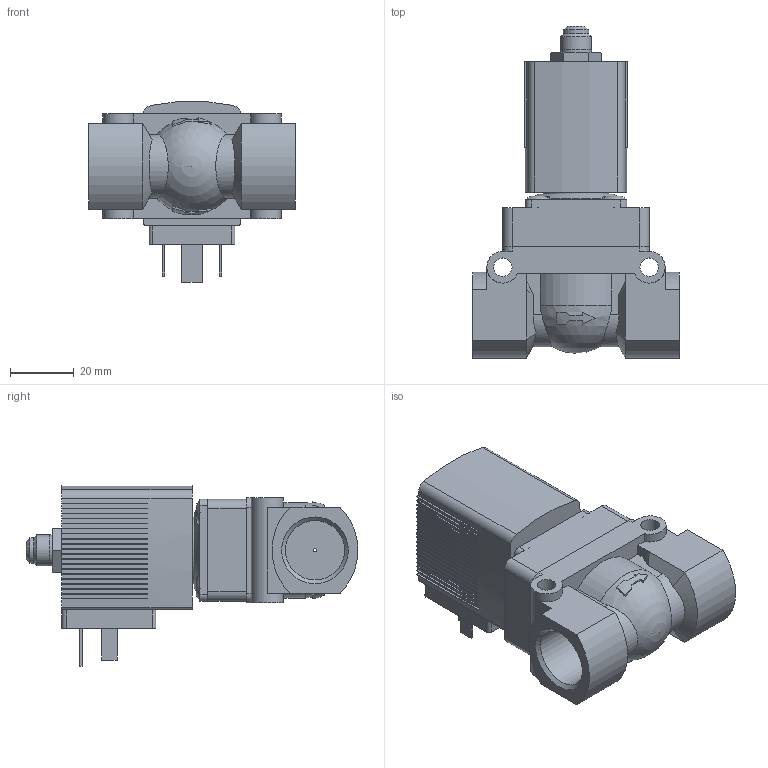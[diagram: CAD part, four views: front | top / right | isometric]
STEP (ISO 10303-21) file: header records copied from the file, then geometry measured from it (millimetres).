
FILE_DESCRIPTION(/* description */ ('STEP AP214'),/* implementation_level */ '2;1');
FILE_NAME(/* name */ '5404-301749-Servo-assisted_2_2_way_piston_valve',/* time_stamp */ '2024-02-27T12:53:28+01:00',/* author */ ('License CC BY-ND 4.0'),/* organization */ ('CADENAS'),/* preprocessor_version */ 'ST-DEVELOPER v19.3',/* originating_system */ 'PARTsolutions',/* authorisation */ ' ');
FILE_SCHEMA (('AUTOMOTIVE_DESIGN {1 0 10303 214 3 1 1}'));
Length unit declared in the file: millimetre
Products named in the file (4): 5404-301749-Servo-assisted 2/2 way piston valve; 5282g-8412MS000-2/2-Wege-Magnetventil_Gehaeuse; 5282d-12MSAU3N-2/2-Wege-Magnetventil_Deckel; AC10ex-5OO-Gewinde-Coil
Assembly tree (3 placements, depth 2):
  5404-301749-Servo-assisted 2/2 way piston valve
    5282g-8412MS000-2/2-Wege-Magnetventil_Gehaeuse
    5282d-12MSAU3N-2/2-Wege-Magnetventil_Deckel
    AC10ex-5OO-Gewinde-Coil
Bounding box: 65 x 104.3 x 56.84 mm (x, y, z)
Volume: 120286.1 mm3; surface area: 29324.9 mm2
Topology: 3 solids, 3 shells, 439 faces, 1210 edges, 799 vertices
Faces by surface type: plane 353, cylinder 60, cone 18, torus 5, sphere 3
Full cylindrical faces by diameter (mm): 1 x1, 2.013 x1, 2.7 x1, 4 x4, 5.8 x2, 7.5 x4, 7.6 x4, 8 x1, 9.73 x1, 9.74 x1, 18.631 x2, 21 x1
Entity records: 15890 total; most frequent: CARTESIAN_POINT 2521, ORIENTED_EDGE 2326, DIRECTION 2290, EDGE_CURVE 1163, LINE 858, VECTOR 858, VERTEX_POINT 787, AXIS2_PLACEMENT_3D 716
